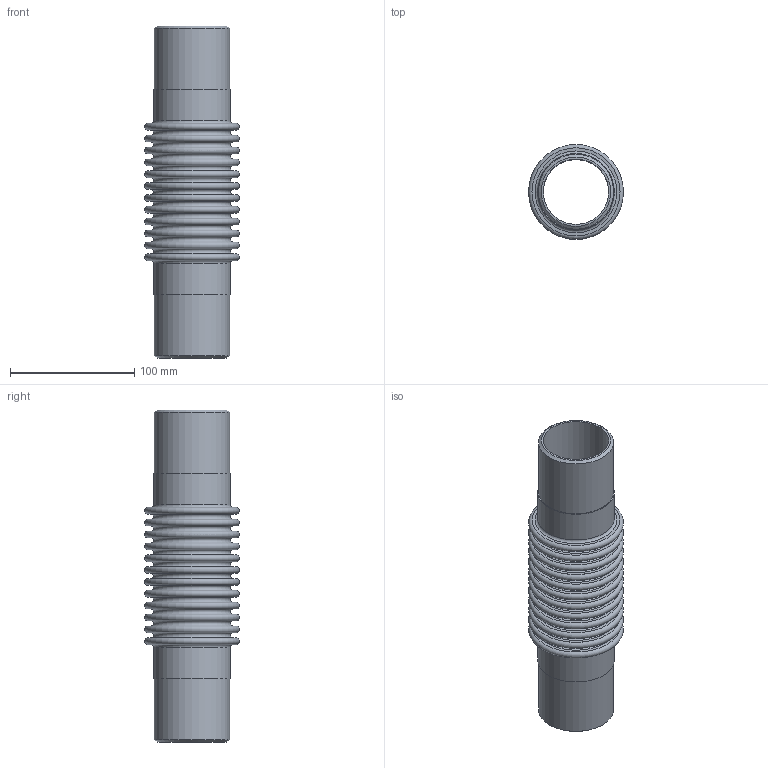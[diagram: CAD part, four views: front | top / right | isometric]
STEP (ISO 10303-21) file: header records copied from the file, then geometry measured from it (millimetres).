
FILE_DESCRIPTION(/* description */ ('EXPANSION JOINT,SINGLE, WELD ENDS,4 INCH NOMINAL'),/* implementation_level */ '2;1');
FILE_NAME(/* name */ 'ASSEMBLY US-2-12-300L.stp',/* time_stamp */ '2026-07-28T15:37:33-05:00',/* author */ ('jorgef'),/* organization */ (''),/* preprocessor_version */ 'ST-DEVELOPER v20.1',/* originating_system */ 'Autodesk Inventor 2026',/* authorisation */ '');
FILE_SCHEMA (('AUTOMOTIVE_DESIGN { 1 0 10303 214 3 1 1 }'));
Length unit declared in the file: inch
Products named in the file (3): ASSEMBLY  US-2-12-300L; STOCK BELLOW - US-2-12-300L; PIPE- US-2-12-300L
Assembly tree (3 placements, depth 2):
  ASSEMBLY  US-2-12-300L
    STOCK BELLOW - US-2-12-300L
    PIPE- US-2-12-300L  x2
Bounding box: 76.2 x 76.2 x 266.7 mm (x, y, z)
Volume: 142334 mm3; surface area: 179900.6 mm2
Topology: 5 solids, 5 shells, 118 faces, 180 edges, 121 vertices
Faces by surface type: plane 58, torus 50, cylinder 8, cone 2
Full cylindrical faces by diameter (mm): 52.502 x2, 60.325 x4, 61.544 x2
Entity records: 2769 total; most frequent: DIRECTION 573, CARTESIAN_POINT 405, ORIENTED_EDGE 342, AXIS2_PLACEMENT_3D 283, EDGE_CURVE 171, EDGE_LOOP 169, CIRCLE 164, VERTEX_POINT 114
